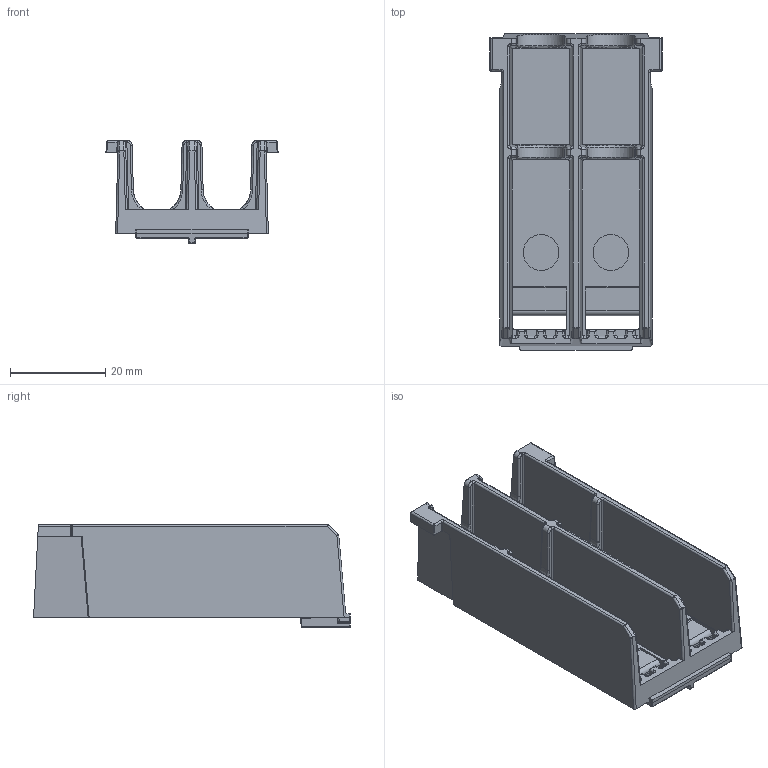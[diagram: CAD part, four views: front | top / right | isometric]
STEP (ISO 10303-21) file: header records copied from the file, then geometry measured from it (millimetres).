
FILE_DESCRIPTION((''),'2;1');
FILE_NAME('3878-0045_RR-EXT-DC-BASE','2017-10-10T',('owenrh01'),(''),'CREO PARAMETRIC BY PTC INC, 2015380','CREO PARAMETRIC BY PTC INC, 2015380','');
FILE_SCHEMA(('CONFIG_CONTROL_DESIGN'));
Length unit declared in the file: millimetre
Products named in the file (1): 3878-0045_RR-EXT-DC-BASE
Bounding box: 36.21 x 66.65 x 21.65 mm (x, y, z)
Volume: 12446.2 mm3; surface area: 11926.7 mm2
Topology: 1 solids, 1 shells, 557 faces, 1281 edges, 728 vertices
Faces by surface type: cylinder 259, plane 138, bspline 120, sphere 36, cone 4
Entity records: 22932 total; most frequent: CARTESIAN_POINT 11464, ORIENTED_EDGE 2562, DIRECTION 2085, EDGE_CURVE 1281, VERTEX_POINT 728, AXIS2_PLACEMENT_3D 720, VECTOR 645, LINE 645
